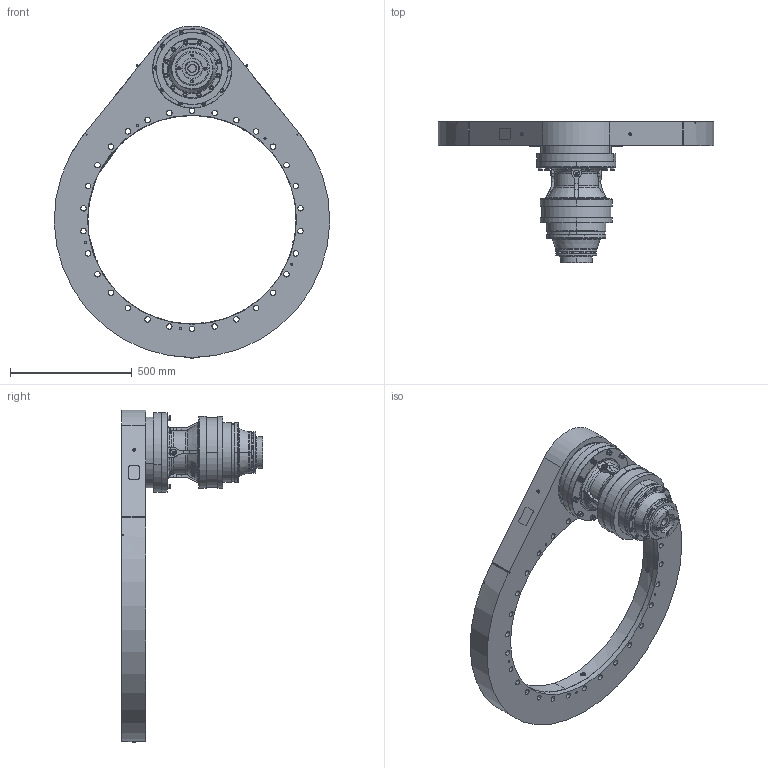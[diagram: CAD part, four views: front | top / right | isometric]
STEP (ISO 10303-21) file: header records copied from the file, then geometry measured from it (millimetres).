
FILE_DESCRIPTION((''),'2;1');
FILE_NAME('RGS20955_CUS','2025-03-04T07:13:56',('cobmac0'),('LIEBHERR'),'CREO PARAMETRIC BY PTC INC, 2024133','CREO PARAMETRIC BY PTC INC, 2024133','');
FILE_SCHEMA(('AP242_MANAGED_MODEL_BASED_3D_ENGINEERING_MIM_LF { 1 0 10303 442 1 1 4 }'));
Products named in the file (1): RGS20955_CUS
Bounding box: 1129.85 x 581 x 1361.43 mm (x, y, z)
Volume: 70795631.5 mm3; surface area: 2516094.8 mm2
Topology: 1 solids, 9 shells, 1607 faces, 3957 edges, 2493 vertices
Faces by surface type: cylinder 632, plane 572, cone 299, torus 104
Entity records: 73100 total; most frequent: CARTESIAN_POINT 12194, DIRECTION 8144, ORIENTED_EDGE 7702, PRESENTATION_STYLE_ASSIGNMENT 5459, STYLED_ITEM 3852, CURVE_STYLE 3851, EDGE_CURVE 3851, AXIS2_PLACEMENT_3D 3237
